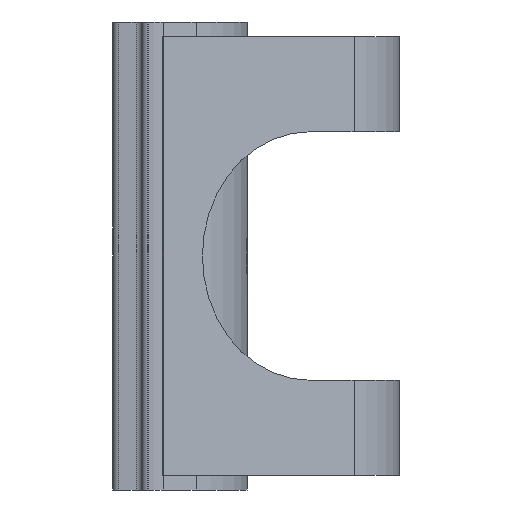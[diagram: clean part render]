
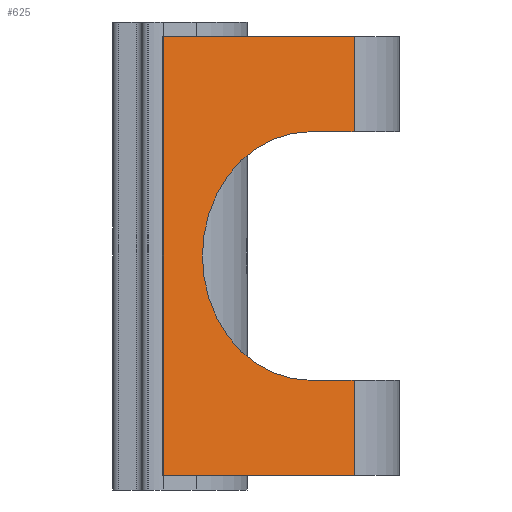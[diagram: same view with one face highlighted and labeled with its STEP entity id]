
A CAD part, left-side view. The second image highlights one B-rep face of the part: STEP entity #625.
In plain terms, the highlighted planar face has unit normal (-0.866, -0.5, 0).
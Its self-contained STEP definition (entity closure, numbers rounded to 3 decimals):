
#59 = VERTEX_POINT ( 'NONE', #1453 ) ;
#65 = EDGE_CURVE ( 'NONE', #705, #1206, #1713, .T. ) ;
#71 = ORIENTED_EDGE ( 'NONE', *, *, #652, .T. ) ;
#78 = EDGE_CURVE ( 'NONE', #1730, #705, #1344, .T. ) ;
#92 = EDGE_CURVE ( 'NONE', #59, #1042, #1142, .T. ) ;
#126 = CARTESIAN_POINT ( 'NONE',  ( -2.018, -8.25, 15.5 ) ) ;
#137 = CARTESIAN_POINT ( 'NONE',  ( -2.886, -6.747, 8. ) ) ;
#151 = VERTEX_POINT ( 'NONE', #1628 ) ;
#197 = DIRECTION ( 'NONE',  ( 0., 0., -1. ) ) ;
#198 = CARTESIAN_POINT ( 'NONE',  ( -2.018, -8.25, 15.5 ) ) ;
#200 = EDGE_CURVE ( 'NONE', #788, #1543, #429, .T. ) ;
#227 = LINE ( 'NONE', #1718, #1520 ) ;
#234 = CARTESIAN_POINT ( 'NONE',  ( -2.018, -8.25, 3.75 ) ) ;
#271 = ORIENTED_EDGE ( 'NONE', *, *, #294, .T. ) ;
#294 = EDGE_CURVE ( 'NONE', #1672, #1730, #1022, .T. ) ;
#331 = DIRECTION ( 'NONE',  ( 0.866, 0.5, 0. ) ) ;
#369 = EDGE_CURVE ( 'NONE', #1206, #59, #1736, .T. ) ;
#382 = DIRECTION ( 'NONE',  ( 0.5, -0.866, 0. ) ) ;
#384 = AXIS2_PLACEMENT_3D ( 'NONE', #137, #658, #542 ) ;
#414 = ORIENTED_EDGE ( 'NONE', *, *, #1280, .T. ) ;
#421 = VECTOR ( 'NONE', #1465, 1000. ) ;
#429 = LINE ( 'NONE', #968, #1059 ) ;
#542 = DIRECTION ( 'NONE',  ( -0.5, 0.866, 0. ) ) ;
#572 = CARTESIAN_POINT ( 'NONE',  ( -5.011, -3.066, 8. ) ) ;
#625 = ADVANCED_FACE ( 'NONE', ( #973 ), #1379, .T. ) ;
#648 = CARTESIAN_POINT ( 'NONE',  ( -5.771, -1.75, 3.75 ) ) ;
#652 = EDGE_CURVE ( 'NONE', #151, #788, #227, .T. ) ;
#658 = DIRECTION ( 'NONE',  ( 0.866, 0.5, 0. ) ) ;
#686 = DIRECTION ( 'NONE',  ( 0., 0., 1. ) ) ;
#705 = VERTEX_POINT ( 'NONE', #1299 ) ;
#707 = DIRECTION ( 'NONE',  ( -0.866, -0.5, 0. ) ) ;
#763 = CARTESIAN_POINT ( 'NONE',  ( -5.771, -1.75, 0.5 ) ) ;
#788 = VERTEX_POINT ( 'NONE', #901 ) ;
#809 = CARTESIAN_POINT ( 'NONE',  ( -5.771, -1.75, 15.5 ) ) ;
#810 = AXIS2_PLACEMENT_3D ( 'NONE', #809, #707, #982 ) ;
#853 = ORIENTED_EDGE ( 'NONE', *, *, #200, .T. ) ;
#857 = EDGE_LOOP ( 'NONE', ( #1530, #1461, #1003, #71, #853, #414, #271, #965, #930 ) ) ;
#864 = DIRECTION ( 'NONE',  ( -0.5, 0.866, 0. ) ) ;
#901 = CARTESIAN_POINT ( 'NONE',  ( -2.018, -8.25, 12.25 ) ) ;
#908 = DIRECTION ( 'NONE',  ( 0., 0., 1. ) ) ;
#926 = CARTESIAN_POINT ( 'NONE',  ( -5.771, -1.75, 15.5 ) ) ;
#930 = ORIENTED_EDGE ( 'NONE', *, *, #65, .T. ) ;
#944 = VECTOR ( 'NONE', #382, 1000. ) ;
#965 = ORIENTED_EDGE ( 'NONE', *, *, #78, .T. ) ;
#968 = CARTESIAN_POINT ( 'NONE',  ( -2.018, -8.25, 15.5 ) ) ;
#973 = FACE_OUTER_BOUND ( 'NONE', #857, .T. ) ;
#982 = DIRECTION ( 'NONE',  ( 0.5, -0.866, 0. ) ) ;
#1000 = CARTESIAN_POINT ( 'NONE',  ( -2.886, -6.747, 8. ) ) ;
#1003 = ORIENTED_EDGE ( 'NONE', *, *, #1222, .T. ) ;
#1022 = LINE ( 'NONE', #1274, #1630 ) ;
#1042 = VERTEX_POINT ( 'NONE', #572 ) ;
#1059 = VECTOR ( 'NONE', #686, 1000. ) ;
#1142 = CIRCLE ( 'NONE', #384, 4.25 ) ;
#1191 = LINE ( 'NONE', #1357, #421 ) ;
#1201 = VECTOR ( 'NONE', #1572, 1000. ) ;
#1206 = VERTEX_POINT ( 'NONE', #234 ) ;
#1222 = EDGE_CURVE ( 'NONE', #1042, #151, #1606, .T. ) ;
#1274 = CARTESIAN_POINT ( 'NONE',  ( -5.771, -1.75, 15.5 ) ) ;
#1280 = EDGE_CURVE ( 'NONE', #1543, #1672, #1191, .T. ) ;
#1299 = CARTESIAN_POINT ( 'NONE',  ( -2.018, -8.25, 0.5 ) ) ;
#1344 = LINE ( 'NONE', #1592, #944 ) ;
#1357 = CARTESIAN_POINT ( 'NONE',  ( -5.771, -1.75, 15.5 ) ) ;
#1379 = PLANE ( 'NONE',  #810 ) ;
#1429 = DIRECTION ( 'NONE',  ( 0.5, -0.866, 0. ) ) ;
#1430 = VECTOR ( 'NONE', #908, 1000. ) ;
#1453 = CARTESIAN_POINT ( 'NONE',  ( -2.886, -6.747, 3.75 ) ) ;
#1461 = ORIENTED_EDGE ( 'NONE', *, *, #92, .T. ) ;
#1465 = DIRECTION ( 'NONE',  ( -0.5, 0.866, 0. ) ) ;
#1520 = VECTOR ( 'NONE', #1429, 1000. ) ;
#1530 = ORIENTED_EDGE ( 'NONE', *, *, #369, .T. ) ;
#1543 = VERTEX_POINT ( 'NONE', #198 ) ;
#1572 = DIRECTION ( 'NONE',  ( -0.5, 0.866, 0. ) ) ;
#1592 = CARTESIAN_POINT ( 'NONE',  ( -5.771, -1.75, 0.5 ) ) ;
#1606 = CIRCLE ( 'NONE', #1633, 4.25 ) ;
#1628 = CARTESIAN_POINT ( 'NONE',  ( -2.886, -6.747, 12.25 ) ) ;
#1630 = VECTOR ( 'NONE', #197, 1000. ) ;
#1633 = AXIS2_PLACEMENT_3D ( 'NONE', #1000, #331, #864 ) ;
#1672 = VERTEX_POINT ( 'NONE', #926 ) ;
#1713 = LINE ( 'NONE', #126, #1430 ) ;
#1718 = CARTESIAN_POINT ( 'NONE',  ( -5.771, -1.75, 12.25 ) ) ;
#1730 = VERTEX_POINT ( 'NONE', #763 ) ;
#1736 = LINE ( 'NONE', #648, #1201 ) ;
